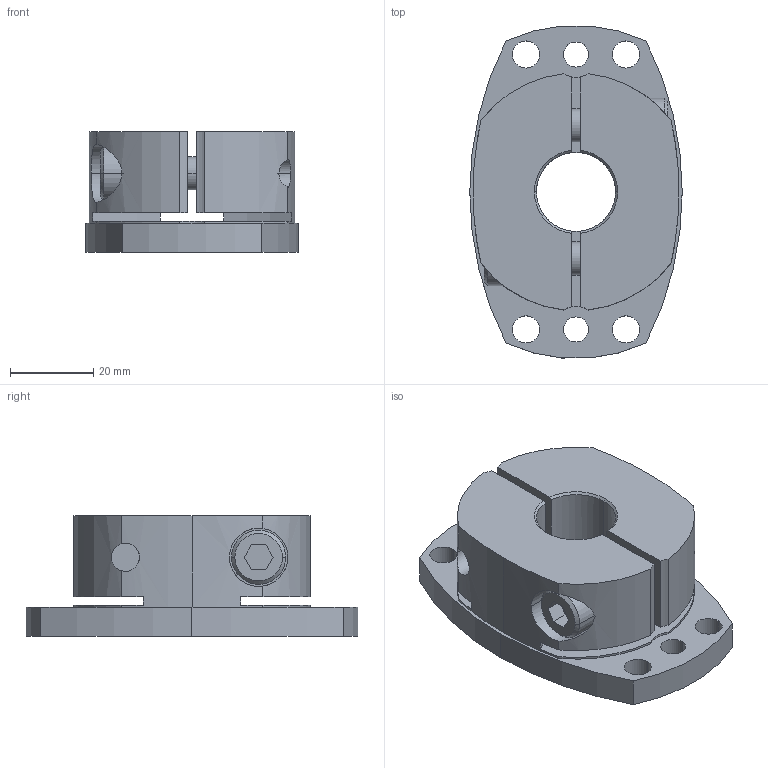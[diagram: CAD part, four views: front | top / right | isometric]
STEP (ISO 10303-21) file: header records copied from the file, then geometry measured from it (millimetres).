
FILE_DESCRIPTION((''),'2;1');
FILE_NAME('SHDB-80B-19.stp','2026-01-28T08:23:43',(''),(''),'AutoCAD STEP 2000i','AutoCAD 2000i',', , ');
FILE_SCHEMA(('CONFIG_CONTROL_DESIGN'));
Length unit declared in the file: millimetre
Products named in the file (2): SHDB-80B-12; 忣兜1
Assembly tree (1 placements, depth 2):
  SHDB-80B-12
    忣兜1
Bounding box: 51 x 79.7 x 29 mm (x, y, z)
Volume: 61061.4 mm3; surface area: 19871.5 mm2
Topology: 1 solids, 1 shells, 102 faces, 280 edges, 184 vertices
Faces by surface type: cylinder 58, plane 34, cone 10
Entity records: 3707 total; most frequent: CARTESIAN_POINT 880, DIRECTION 602, ORIENTED_EDGE 560, EDGE_CURVE 280, AXIS2_PLACEMENT_3D 238, VERTEX_POINT 184, CIRCLE 134, VECTOR 126
